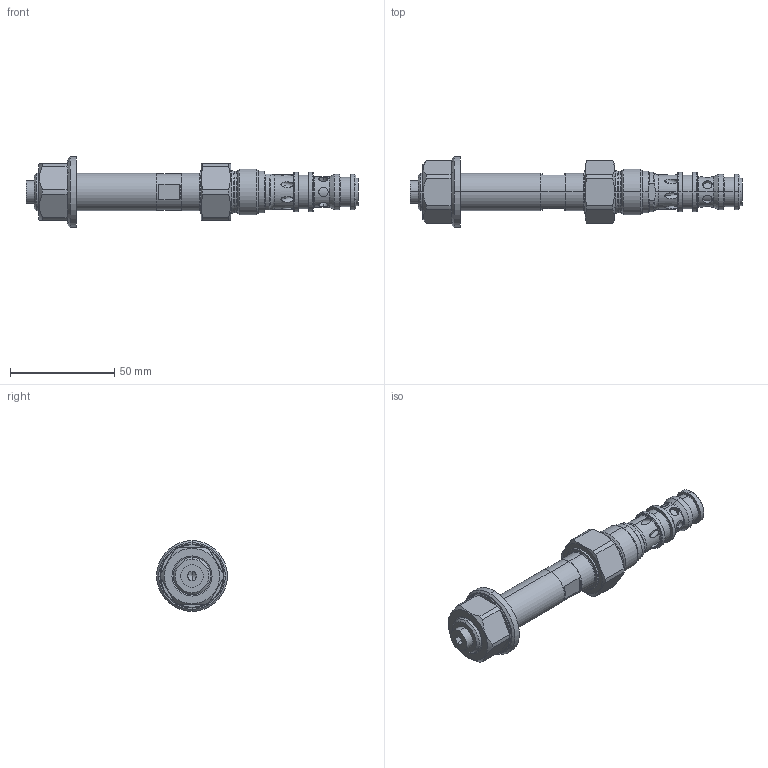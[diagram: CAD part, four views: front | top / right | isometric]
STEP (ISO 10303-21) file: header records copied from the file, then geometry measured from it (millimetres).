
FILE_DESCRIPTION (( 'STEP AP214' ), '1' );
FILE_NAME ('SLYPM22-FG-X5.STEP', '2020-04-01T07:55:34', ( '' ), ( '' ), 'SwSTEP 2.0', 'SolidWorks 2018', '' );
FILE_SCHEMA (( 'AUTOMOTIVE_DESIGN' ));
Length unit declared in the file: millimetre
Products named in the file (1): SLYPM22-FG-X5
Bounding box: 159.4 x 34 x 34 mm (x, y, z)
Volume: 50471.5 mm3; surface area: 14555.4 mm2
Topology: 1 solids, 1 shells, 259 faces, 609 edges, 380 vertices
Faces by surface type: cylinder 103, plane 79, cone 39, torus 38
Entity records: 11874 total; most frequent: CARTESIAN_POINT 3108, DIRECTION 1251, ORIENTED_EDGE 1214, EDGE_CURVE 607, AXIS2_PLACEMENT_3D 519, VERTEX_POINT 380, EDGE_LOOP 289, UNCERTAINTY_MEASURE_WITH_UNIT 262
